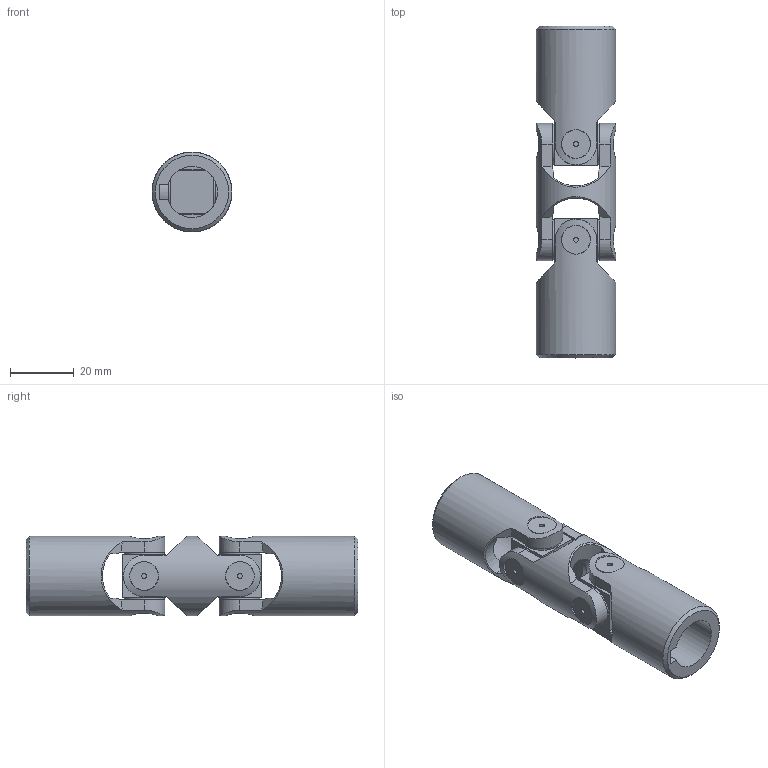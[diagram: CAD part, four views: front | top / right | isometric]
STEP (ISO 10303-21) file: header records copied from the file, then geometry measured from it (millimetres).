
FILE_DESCRIPTION(/* description */ (''),/* implementation_level */ '2;1');
FILE_NAME(/* name */ '\\SRV2016\Societa\Stefano\Disegni 3D\00Catalogo 3D\02Doppi GD-GBD\SGBD161C.stp',/* time_stamp */ '2021-11-22T17:10:22+01:00',/* author */ ('acquisti'),/* organization */ (''),/* preprocessor_version */ 'ST-DEVELOPER v15.6',/* originating_system */ 'Autodesk Inventor 2015',/* authorisation */ '');
FILE_SCHEMA (('AUTOMOTIVE_DESIGN { 1 0 10303 214 3 1 1 }'));
Length unit declared in the file: millimetre
Products named in the file (5): 04G MOD; 04G SFE; 1GB MOC; 1GB MOS; Ø25_1GBD-00_SGBD1600
Assembly tree (5 placements, depth 2):
  Ø25_1GBD-00_SGBD1600
    04G MOD
    04G SFE  x2
    1GB MOC
    1GB MOS
Bounding box: 25 x 104 x 25 mm (x, y, z)
Volume: 29983.9 mm3; surface area: 16083.7 mm2
Topology: 5 solids, 5 shells, 166 faces, 398 edges, 260 vertices
Faces by surface type: plane 77, cylinder 63, cone 20, torus 6
Full cylindrical faces by diameter (mm): 1.5 x8, 12.5 x8, 13 x2, 16 x1, 25 x3
Entity records: 5185 total; most frequent: CARTESIAN_POINT 1783, ORIENTED_EDGE 692, DIRECTION 649, EDGE_CURVE 346, AXIS2_PLACEMENT_3D 285, VERTEX_POINT 242, EDGE_LOOP 198, FACE_OUTER_BOUND 152
